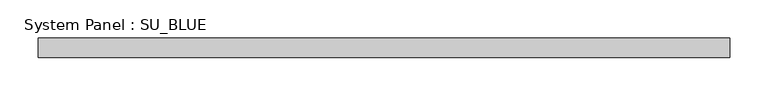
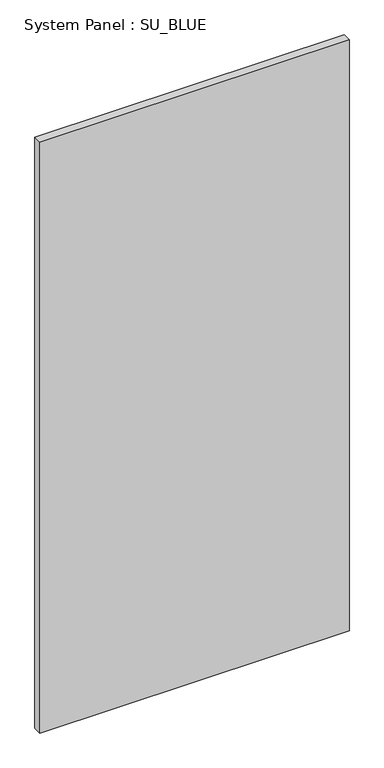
"""IFC4 building model written with IfcOpenShell, lengths in millimetres: plate geometry, System Panel : SU_BLUE."""

import ifcopenshell
import ifcopenshell.guid

model = None  # the IFC model being written
_history = None  # IfcOwnerHistory: only IFC2X3 demands one
_inside = {}  # id of a spatial element -> (the spatial element, [elements in it])
_under = {}  # id of a project, library or spatial element -> (it, [spatial elements below it])
_declared = {}  # id of a project -> (the project, [libraries it declares])
_typed = {}  # id of a type object -> (the type object, [elements of that type])
_made_of = {}  # id of a material, layer set ... -> (it, [elements and type objects made of it])


def new_model(schema):
    """Start an empty IFC model of exactly this schema.

    Asked for "IFC4X3", IfcOpenShell would pick the latest addendum, in which some entities
    have other attributes; the version numbers below select the first issue.
    IFC2X3 requires an IfcOwnerHistory on every rooted entity: one is made here for all.
    """
    global model, _history
    if schema == "IFC4X3":
        model = ifcopenshell.file(schema_version=(4, 3, 0, 0))
    else:
        model = ifcopenshell.file(schema=schema)
    _inside.clear()
    _under.clear()
    _declared.clear()
    _typed.clear()
    _made_of.clear()
    _history = None
    if model.schema == "IFC2X3":
        org = make("IfcOrganization", Name="unknown")
        user = make(
            "IfcPersonAndOrganization",
            ThePerson=make("IfcPerson", FamilyName="unknown"),
            TheOrganization=org,
        )
        app = make(
            "IfcApplication",
            ApplicationDeveloper=org,
            Version="unknown",
            ApplicationFullName="unknown",
            ApplicationIdentifier="unknown",
        )
        _history = make(
            "IfcOwnerHistory",
            OwningUser=user,
            OwningApplication=app,
            ChangeAction="ADDED",
            CreationDate=0,
        )
    return model


def make(cls, **values):
    """One entity of the class cls with the attributes given. An attribute that is None is left unset."""
    return model.create_entity(
        cls, **{name: value for name, value in values.items() if value is not None}
    )


def rooted(cls, **values):
    """An entity with a GlobalId (a new one), such as an element, a storey or a relation."""
    return make(cls, GlobalId=ifcopenshell.guid.new(), OwnerHistory=_history, **values)


def si_unit(unit_type, name, prefix=None):
    """IfcSIUnit, for example si_unit("LENGTHUNIT", "METRE", prefix="MILLI")."""
    return make("IfcSIUnit", UnitType=unit_type, Prefix=prefix, Name=name)


def assignment(units):
    """IfcUnitAssignment: the units of a project."""
    return None if units is None else make("IfcUnitAssignment", Units=units)


def point(xyz):
    """IfcCartesianPoint."""
    return None if xyz is None else make("IfcCartesianPoint", Coordinates=xyz)


def direction(xyz):
    """IfcDirection."""
    return None if xyz is None else make("IfcDirection", DirectionRatios=xyz)


def frame(location, z_axis=None, x_axis=None):
    """IfcAxis2Placement3D, a coordinate frame: its origin and axes. An axis left out is left unset."""
    return make(
        "IfcAxis2Placement3D",
        Location=point(location),
        Axis=direction(z_axis),
        RefDirection=direction(x_axis),
    )


def origin():
    """The frame at (0, 0, 0) with its axes left unset."""
    return frame((0.0, 0.0, 0.0))


def origin_with_axes():
    """The frame at (0, 0, 0) with the z axis (0, 0, 1) and the x axis (1, 0, 0) written out."""
    return frame((0.0, 0.0, 0.0), z_axis=(0.0, 0.0, 1.0), x_axis=(1.0, 0.0, 0.0))


def place(relative_to, where):
    """IfcLocalPlacement: puts the frame where relative to a parent placement (None: the world)."""
    return make(
        "IfcLocalPlacement", PlacementRelTo=relative_to, RelativePlacement=where
    )


def context(
    kind, dimensions, precision=None, world=None, true_north=None, identifier=None
):
    """IfcGeometricRepresentationContext, for example the 3D "Model" context."""
    return make(
        "IfcGeometricRepresentationContext",
        ContextIdentifier=identifier,
        ContextType=kind,
        CoordinateSpaceDimension=dimensions,
        Precision=precision,
        WorldCoordinateSystem=world,
        TrueNorth=true_north,
    )


def project(units=None, contexts=None):
    """IfcProject with its units and contexts."""
    return rooted(
        "IfcProject",
        Name="project",
        RepresentationContexts=contexts,
        UnitsInContext=assignment(units),
    )


def spatial(cls, under=None, at=None, **own):
    """A site, building, storey or space (cls), placed at a placement, below another one or the project."""
    s = rooted(cls, ObjectPlacement=at, **own)
    if under is not None:
        _under.setdefault(under.id(), (under, []))[1].append(s)
    return s


def polyline(points):
    """IfcPolyline through the points."""
    return make("IfcPolyline", Points=[point(p) for p in points])


def outline(outer, holes=None, kind="AREA"):
    """IfcArbitraryClosedProfileDef: a profile drawn as a closed curve; with holes, ...WithVoids."""
    if holes is None:
        return make("IfcArbitraryClosedProfileDef", ProfileType=kind, OuterCurve=outer)
    return make(
        "IfcArbitraryProfileDefWithVoids",
        ProfileType=kind,
        OuterCurve=outer,
        InnerCurves=holes,
    )


def extrude(swept, where, along, depth):
    """IfcExtrudedAreaSolid: the profile swept, set in the frame where, extruded along a direction by depth."""
    return make(
        "IfcExtrudedAreaSolid",
        SweptArea=swept,
        Position=where,
        ExtrudedDirection=direction(along),
        Depth=depth,
    )


def shape(context_of_items, identifier, shape_type, items):
    """IfcShapeRepresentation: the items that make up one representation, for example the "Body"."""
    return make(
        "IfcShapeRepresentation",
        ContextOfItems=context_of_items,
        RepresentationIdentifier=identifier,
        RepresentationType=shape_type,
        Items=items,
    )


def source(mapping_origin, context_of_items, identifier, shape_type, items):
    """IfcRepresentationMap: a shape defined once, which mapped items show again and again."""
    return make(
        "IfcRepresentationMap",
        MappingOrigin=mapping_origin,
        MappedRepresentation=shape(context_of_items, identifier, shape_type, items),
    )


def transform(
    local_origin,
    x_axis=None,
    y_axis=None,
    z_axis=None,
    scale=None,
    scale2=None,
    scale3=None,
    uniform=True,
):
    """IfcCartesianTransformationOperator3D, or its non-uniform kind. x_axis, y_axis, z_axis: its Axis1, 2, 3."""
    if uniform:
        return make(
            "IfcCartesianTransformationOperator3D",
            Axis1=direction(x_axis),
            Axis2=direction(y_axis),
            LocalOrigin=point(local_origin),
            Scale=scale,
            Axis3=direction(z_axis),
        )
    return make(
        "IfcCartesianTransformationOperator3DnonUniform",
        Axis1=direction(x_axis),
        Axis2=direction(y_axis),
        LocalOrigin=point(local_origin),
        Scale=scale,
        Axis3=direction(z_axis),
        Scale2=scale2,
        Scale3=scale3,
    )


def mapped(mapping_source, mapping_target):
    """IfcMappedItem: shows the shape of a source again, moved by a transform."""
    return make(
        "IfcMappedItem", MappingSource=mapping_source, MappingTarget=mapping_target
    )


def made_of(thing, what):
    """Note that an element or type object is made of a material, layer set ...; save() writes the relation."""
    if what is not None:
        _made_of.setdefault(what.id(), (what, []))[1].append(thing)
    return thing


def element(
    cls,
    number,
    at=None,
    inside=None,
    cuts=None,
    type_object=None,
    material=None,
    context=None,
    identifier="Body",
    shape_type=None,
    held_by="IfcProductDefinitionShape",
    body=None,
    shapes=None,
    **own,
):
    """One element of the class cls, such as IfcWall. Its Tag is "e" and its number.

    at: its placement. inside: the storey or other place that contains it. cuts: it is an
    opening in that element (IfcRelVoidsElement). A single representation is given by context,
    identifier, shape_type and body (its items); several are given by shapes. held_by: the class
    of the entity that holds the representations. save() writes the other relations.
    """
    e = rooted(cls, Tag="e%d" % number, ObjectPlacement=at, **own)
    if body is not None:
        shapes = [shape(context, identifier, shape_type, body)]
    if shapes is not None:
        e.Representation = make(held_by, Representations=shapes)
    if inside is not None:
        _inside.setdefault(inside.id(), (inside, []))[1].append(e)
    if cuts is not None:
        rooted(
            "IfcRelVoidsElement", RelatingBuildingElement=cuts, RelatedOpeningElement=e
        )
    if type_object is not None:
        _typed.setdefault(type_object.id(), (type_object, []))[1].append(e)
    return made_of(e, material)


def aggregate(whole, parts):
    """IfcRelAggregates: a whole, such as a stair, and the parts it consists of."""
    return rooted("IfcRelAggregates", RelatingObject=whole, RelatedObjects=parts)


def save(model, path):
    """Write the relations noted so far, then the file.

    IfcRelAggregates (storeys below a building ...), IfcRelContainedInSpatialStructure (elements
    in a storey), IfcRelDefinesByType, IfcRelAssociatesMaterial and IfcRelDeclares: one each for
    every whole, place, type object, material and project.
    """
    for whole, parts in _under.values():
        aggregate(whole, parts)
    for where, things in _inside.values():
        rooted(
            "IfcRelContainedInSpatialStructure",
            RelatedElements=things,
            RelatingStructure=where,
        )
    for kind, things in _typed.values():
        rooted("IfcRelDefinesByType", RelatedObjects=things, RelatingType=kind)
    for what, things in _made_of.values():
        rooted("IfcRelAssociatesMaterial", RelatedObjects=things, RelatingMaterial=what)
    for by, libraries in _declared.values():
        rooted("IfcRelDeclares", RelatingContext=by, RelatedDefinitions=libraries)
    model.write(path)


def system_panel_su_blue_5a18cedf(model_context):
    return source(origin(), model_context, "Body", "SweptSolid", [
        extrude(outline(polyline([(452.5443201, 19.05), (-452.5443201, 19.05), (-452.5443201, 44.45), (452.5443201, 44.45), (452.5443201, 19.05)])), origin_with_axes(), (0.0, 0.0, 1.0), 1828.8),
    ])


if __name__ == "__main__":
    model = new_model("IFC4")
    model_context = context("Model", 3, world=origin())
    ifc_project = project(units=[si_unit("LENGTHUNIT", "METRE", prefix="MILLI")], contexts=[model_context])
    site = spatial("IfcSite", under=ifc_project)
    building = spatial("IfcBuilding", under=site)
    placement = place(None, origin())
    system_panel_su_blue_shape = system_panel_su_blue_5a18cedf(model_context)
    element("IfcPlate", 1, ObjectType="System Panel : SU_BLUE", at=placement, inside=building, context=model_context, shape_type="MappedRepresentation", body=[
        mapped(system_panel_su_blue_shape, transform((0.0, 0.0, 0.0), x_axis=(1.0, 0.0, 0.0), y_axis=(0.0, 1.0, 0.0), z_axis=(0.0, 0.0, 1.0))),
    ])
    save(model, "model.ifc")
